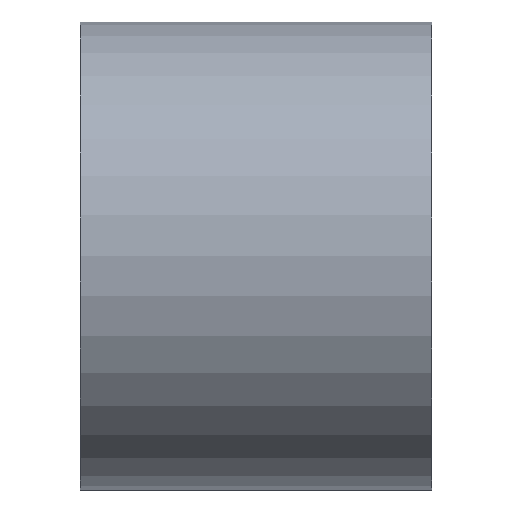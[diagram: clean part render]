
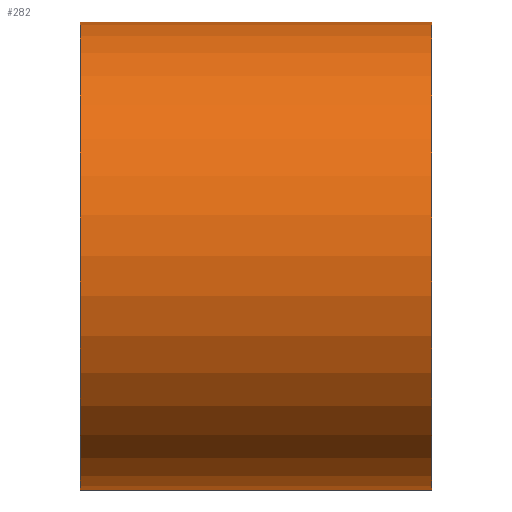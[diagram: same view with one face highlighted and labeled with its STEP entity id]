
A CAD part, top view. The second image highlights one B-rep face of the part: STEP entity #282.
In plain terms, the highlighted cylindrical face has radius 8 mm (diameter 16 mm), a full revolution.
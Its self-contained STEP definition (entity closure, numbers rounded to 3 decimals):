
#38=LINE('',#505,#60);
#60=VECTOR('',#424,8.);
#64=CYLINDRICAL_SURFACE('',#336,8.);
#94=FACE_OUTER_BOUND('',#115,.T.);
#115=EDGE_LOOP('',(#257,#258,#259,#260));
#129=CIRCLE('',#335,8.);
#130=CIRCLE('',#337,8.);
#152=VERTEX_POINT('',#500);
#153=VERTEX_POINT('',#504);
#187=EDGE_CURVE('',#152,#152,#129,.T.);
#188=EDGE_CURVE('',#152,#153,#38,.T.);
#189=EDGE_CURVE('',#153,#153,#130,.T.);
#257=ORIENTED_EDGE('',*,*,#187,.F.);
#258=ORIENTED_EDGE('',*,*,#188,.T.);
#259=ORIENTED_EDGE('',*,*,#189,.T.);
#260=ORIENTED_EDGE('',*,*,#188,.F.);
#282=ADVANCED_FACE('',(#94),#64,.T.);
#335=AXIS2_PLACEMENT_3D('',#502,#420,#421);
#336=AXIS2_PLACEMENT_3D('',#503,#422,#423);
#337=AXIS2_PLACEMENT_3D('',#506,#425,#426);
#420=DIRECTION('center_axis',(-1.,0.,0.));
#421=DIRECTION('ref_axis',(0.,0.,1.));
#422=DIRECTION('center_axis',(-1.,0.,0.));
#423=DIRECTION('ref_axis',(0.,0.,1.));
#424=DIRECTION('',(1.,0.,0.));
#425=DIRECTION('center_axis',(-1.,0.,0.));
#426=DIRECTION('ref_axis',(0.,0.,1.));
#500=CARTESIAN_POINT('',(0.,0.,-8.));
#502=CARTESIAN_POINT('Origin',(0.,0.,0.));
#503=CARTESIAN_POINT('Origin',(2.5,0.,0.));
#504=CARTESIAN_POINT('',(12.,0.,-8.));
#505=CARTESIAN_POINT('',(2.5,0.,-8.));
#506=CARTESIAN_POINT('Origin',(12.,0.,0.));
